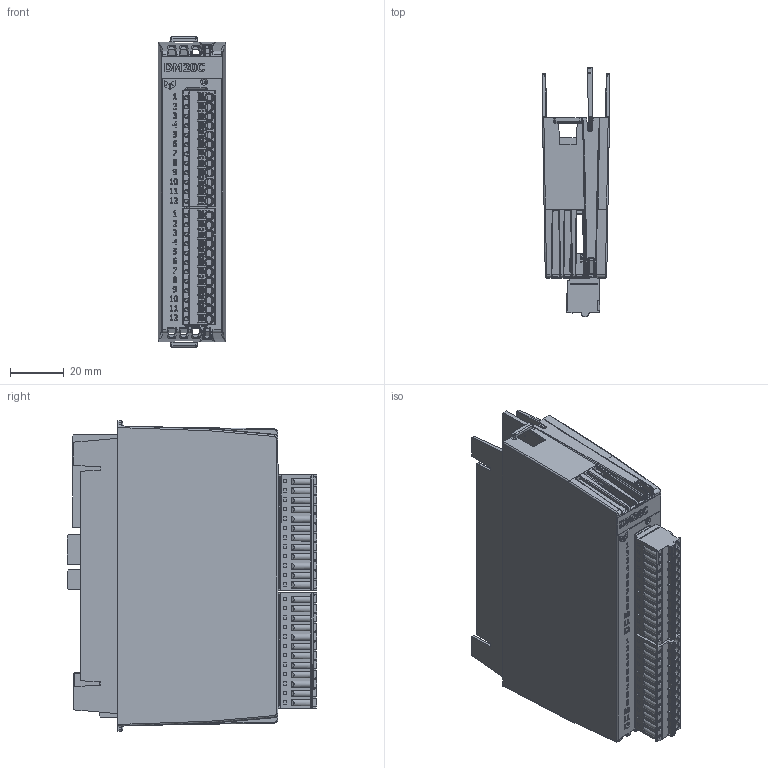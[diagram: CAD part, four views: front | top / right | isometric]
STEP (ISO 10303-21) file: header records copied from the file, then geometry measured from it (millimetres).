
FILE_DESCRIPTION(/* description */ (''),/* implementation_level */ '2;1');
FILE_NAME(/* name */ 'C:\Users\Public\Documents\Autodesk\Inventor 2023\DM20C_Simplified.stp',/* time_stamp */ '2024-10-15T22:01:37+02:00',/* author */ ('shoma'),/* organization */ (''),/* preprocessor_version */ 'ST-DEVELOPER v19',/* originating_system */ 'Autodesk Inventor 2023',/* authorisation */ '');
FILE_SCHEMA (('AUTOMOTIVE_DESIGN { 1 0 10303 214 3 1 1 }'));
Products named in the file (1): DM20C_Simplified
Bounding box: 24.95 x 92.98 x 115.5 mm (x, y, z)
Volume: 132666.6 mm3; surface area: 67328.6 mm2
Topology: 1 solids, 49 shells, 6373 faces, 16881 edges, 10807 vertices
Faces by surface type: plane 4202, cylinder 1335, bspline 572, cone 217, torus 25, sphere 22
Full cylindrical faces by diameter (mm): 0.296 x2, 0.3 x116, 0.457 x2, 1.17 x24, 1.2 x24, 1.25 x24, 1.3 x24, 1.6 x24, 2.5 x1, 3.1 x24
Entity records: 217810 total; most frequent: CARTESIAN_POINT 54051, ORIENTED_EDGE 33708, DIRECTION 30671, EDGE_CURVE 16854, LINE 12407, VECTOR 12407, VERTEX_POINT 10807, AXIS2_PLACEMENT_3D 9132
